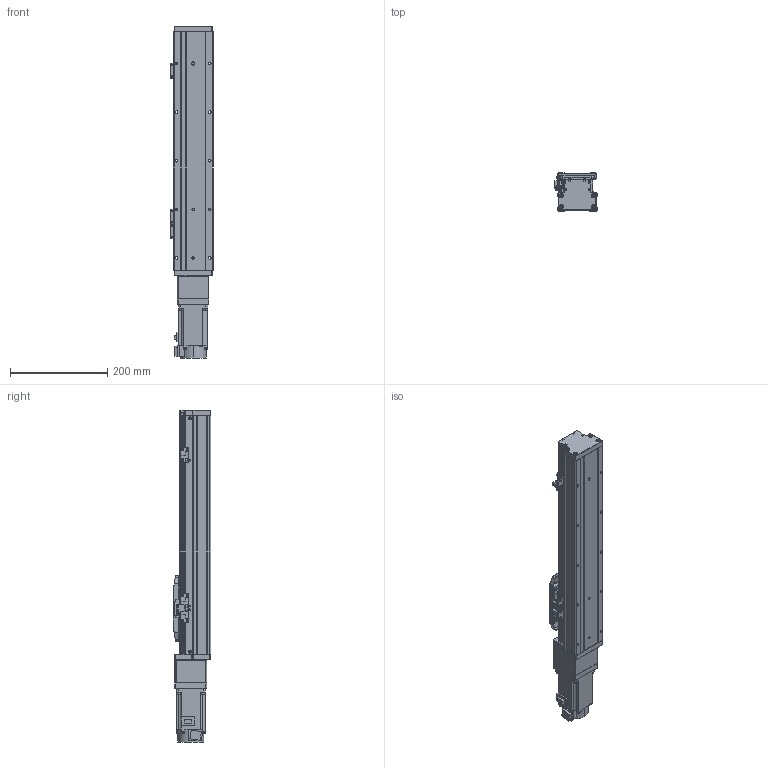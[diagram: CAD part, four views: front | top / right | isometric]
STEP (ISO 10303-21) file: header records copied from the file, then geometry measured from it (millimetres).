
FILE_DESCRIPTION (( 'STEP AP203' ), '1' );
FILE_NAME ('GTH8-300-BC-M20-C4.step', '2022-09-23T00:54:26', ( '微软用户' ), ( '微软中国' ), 'SwSTEP 2.0', 'SolidWorks 2020', '' );
FILE_SCHEMA (( 'CONFIG_CONTROL_DESIGN' ));
Length unit declared in the file: millimetre
Products named in the file (19): CTHA86-006-1_CTHA86-006-2; GTH80-004; GTH80-028; CTHA86-013; GTH80-006; GTH50-024; CTHA86-027; GTH80-013; GTH50-023; hg-kn43j_-s100_; GBT 70.3-M3℅6; GBT96.1-2002 3×0.8; GTH8-300-BC-M20-C4; GTH80-022; BTH-M3X5X6; GTH80-001_300; GBT 70.1-M3℅6; GTH80-003; GBT 70.1-M4×16
Assembly tree (60 placements, depth 2):
  GTH8-300-BC-M20-C4
    GTH80-001_300
    GTH80-003
    GTH80-004
    GTH80-006
    GTH80-013
    GBT 70.3-M3℅6  x6
    GTH80-022
    GBT 70.1-M3℅6  x14
    GBT 70.1-M4×16  x8
    GTH80-028  x2
    GTH50-024  x3
    GTH50-023  x3
    GBT96.1-2002 3×0.8  x6
    BTH-M3X5X6  x8
    CTHA86-006-1_CTHA86-006-2
    CTHA86-013
    CTHA86-027
    hg-kn43j_-s100_
Bounding box: 86.9 x 78 x 682.7 mm (x, y, z)
Volume: 2932873.9 mm3; surface area: 347173.9 mm2
Topology: 62 solids, 62 shells, 2219 faces, 5092 edges, 3099 vertices
Faces by surface type: plane 1173, cylinder 589, cone 285, torus 162, sphere 8, bspline 2
Entity records: 38372 total; most frequent: CARTESIAN_POINT 6335, DIRECTION 6282, ORIENTED_EDGE 5774, EDGE_CURVE 2887, AXIS2_PLACEMENT_3D 2188, VECTOR 1906, LINE 1906, VERTEX_POINT 1812
